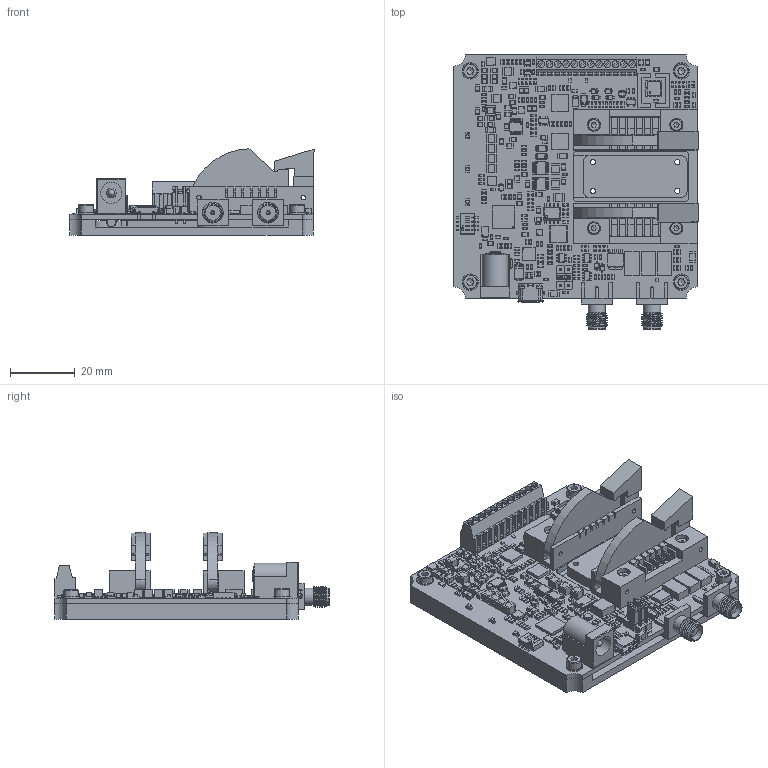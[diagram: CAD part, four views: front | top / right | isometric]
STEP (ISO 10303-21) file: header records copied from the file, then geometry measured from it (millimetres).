
FILE_DESCRIPTION(/* description */ ('STEP AP214','CAx-IF Rec.Pracs.---User Defined Attributes---1.5---2016-08-15'),/* implementation_level */ '2;1');
FILE_NAME(/* name */ '6a4cf8788bc853de2ad622e9',/* time_stamp */ '2026-07-07T13:00:52Z',/* author */ (''),/* organization */ (''),/* preprocessor_version */ 'ST-DEVELOPER v20',/* originating_system */ 'ONSHAPE BY PTC INC, 1.217',/* authorisation */ ' ');
FILE_SCHEMA (('AUTOMOTIVE_DESIGN {1 0 10303 214 3 1 1}'));
Products named in the file (1207): CTL200; CTL200-1_1; CTL200-1; CTL200-1_38; CTL200-1_53; CTL200-1_12; CTL200-1_65; CTL200-1_3; CTL200-1_6; CTL200-1_35; CTL200-1_20; CTL200-1_77; CTL200-1_24; CTL200-1_61; CTL200-1_80; CTL200-1_76; CTL200-1_2; CTL200-1_68; CTL200-1_42; CTL200-1_51; CTL200-1_72; CTL200-1_9; CTL200-1_87; CTL200-1_33; CTL200-1_93; CTL200-1_28; CTL200-1_26; CTL200-1_70; CTL200-1_29; CTL200-1_11; CTL200-1_50; CTL200-1_102; CTL200-1_49; CTL200-1_34; CTL200-1_98; CTL200-1_40; CTL200-1_7; CTL200-1_19; CTL200-1_97; CTL200-1_39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
Assembly tree (1215 placements, depth 2):
  CTL200
    CTL200-1_1
    CTL200-1
    CTL200-1_38
    CTL200-1
    CTL200-1_53
    CTL200-1_12
    CTL200-1_65
    CTL200-1_3
    CTL200-1_6
    CTL200-1_35
    CTL200-1_20
    CTL200-1
    CTL200-1_77
    CTL200-1_24
    CTL200-1
    CTL200-1_61
    CTL200-1_80
    CTL200-1_1
    CTL200-1_76
    CTL200-1_2
    CTL200-1
    CTL200-1_68
    CTL200-1_42
    CTL200-1_51
    CTL200-1
    CTL200-1
    CTL200-1_72
    CTL200-1
    CTL200-1_9
    CTL200-1_2
    CTL200-1
    CTL200-1_87
    CTL200-1
    CTL200-1_33
    CTL200-1
    CTL200-1_1
    CTL200-1_93
    CTL200-1_28
    CTL200-1
    CTL200-1
    CTL200-1_53
    CTL200-1
    CTL200-1_26
    CTL200-1
    CTL200-1_70
    CTL200-1
    CTL200-1_29
    CTL200-1_11
    CTL200-1_50
    CTL200-1_102
    CTL200-1_49
    CTL200-1_1
    CTL200-1_61
    CTL200-1
    CTL200-1
    CTL200-1_34
    CTL200-1_1
    CTL200-1
    CTL200-1_1
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Bounding box: 75.17 x 84.52 x 26.58 mm (x, y, z)
Volume: 40780.3 mm3; surface area: 45886.6 mm2
Topology: 1215 solids, 1215 shells, 10561 faces, 23898 edges, 15788 vertices
Faces by surface type: plane 9354, cylinder 1088, cone 47, bspline 28, torus 27, sphere 17
Full cylindrical faces by diameter (mm): 0.2 x2, 0.207 x4, 0.216 x1, 0.25 x11, 0.3 x3, 0.35 x6, 0.368 x1, 0.4 x4, 0.75 x2, 0.76 x2, 0.9 x18, 1 x15, 1.25 x2, 1.27 x2, 1.35 x4, 1.4 x8, 1.6 x8, 2 x7, 2.05 x4, 2.1 x24, 2.4 x4, 2.438 x4, 2.5 x7, 2.7 x4, 2.8 x1, 2.85 x4, 2.9 x2, 3 x1, 3.4 x1, 3.8 x4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
Entity records: 319169 total; most frequent: CARTESIAN_POINT 53292, DIRECTION 48446, ORIENTED_EDGE 46670, EDGE_CURVE 23335, LINE 20878, VECTOR 20878, VERTEX_POINT 15543, AXIS2_PLACEMENT_3D 13784
